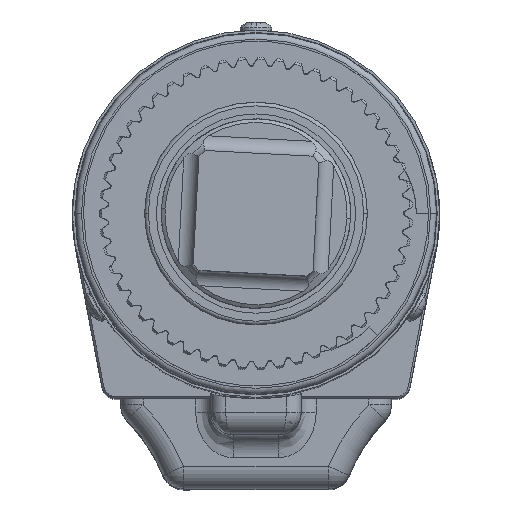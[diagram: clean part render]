
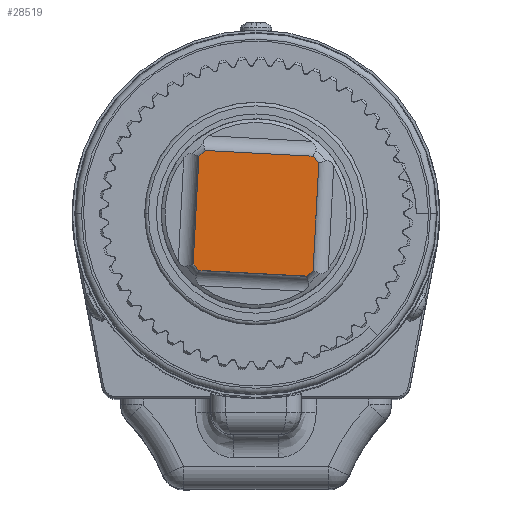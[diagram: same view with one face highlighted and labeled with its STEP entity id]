
A CAD part, top view. The second image highlights one B-rep face of the part: STEP entity #28519.
In plain terms, the highlighted planar face has unit normal (0, 0, 1).
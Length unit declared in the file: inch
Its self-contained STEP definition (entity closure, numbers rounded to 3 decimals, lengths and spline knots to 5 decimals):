
#1443 = AXIS2_PLACEMENT_3D ( 'NONE', #68792, #6378, #79298 ) ;
#6378 = DIRECTION ( 'NONE',  ( 0., 0., 1. ) ) ;
#6581 = VERTEX_POINT ( 'NONE', #33371 ) ;
#6741 = DIRECTION ( 'NONE',  ( 0.999, -0.053, 0. ) ) ;
#7119 = VERTEX_POINT ( 'NONE', #47820 ) ;
#10958 = EDGE_CURVE ( 'NONE', #51043, #114340, #50826, .T. ) ;
#11391 = ORIENTED_EDGE ( 'NONE', *, *, #21856, .T. ) ;
#12324 = VECTOR ( 'NONE', #14790, 39.37008 ) ;
#12559 = ORIENTED_EDGE ( 'NONE', *, *, #69939, .T. ) ;
#14704 = DIRECTION ( 'NONE',  ( 0.053, 0.999, 0. ) ) ;
#14790 = DIRECTION ( 'NONE',  ( -0.053, -0.999, 0. ) ) ;
#16274 = DIRECTION ( 'NONE',  ( 0.999, -0.053, 0. ) ) ;
#17007 = CARTESIAN_POINT ( 'NONE',  ( 0.03555, 0.66906, 5.7125 ) ) ;
#21355 = CARTESIAN_POINT ( 'NONE',  ( 0.92221, -0.54821, 5.7125 ) ) ;
#21856 = EDGE_CURVE ( 'NONE', #68021, #109756, #68152, .T. ) ;
#23177 = EDGE_CURVE ( 'NONE', #51043, #109756, #123085, .T. ) ;
#23558 = VECTOR ( 'NONE', #14704, 39.37008 ) ;
#25371 = EDGE_CURVE ( 'NONE', #28621, #114340, #92296, .T. ) ;
#25748 = AXIS2_PLACEMENT_3D ( 'NONE', #32892, #61510, #52847 ) ;
#26718 = CARTESIAN_POINT ( 'NONE',  ( -0.42057, 0.52155, 5.7125 ) ) ;
#27552 = DIRECTION ( 'NONE',  ( -0.999, 0.053, 0. ) ) ;
#28355 = ORIENTED_EDGE ( 'NONE', *, *, #116349, .F. ) ;
#28519 = ADVANCED_FACE ( 'NONE', ( #132526 ), #100123, .F. ) ;
#28621 = VERTEX_POINT ( 'NONE', #111071 ) ;
#29386 = CARTESIAN_POINT ( 'NONE',  ( -0.47348, -0.47404, 5.7125 ) ) ;
#31197 = CARTESIAN_POINT ( 'NONE',  ( -0.52155, -0.42057, 5.7125 ) ) ;
#32892 = CARTESIAN_POINT ( 'NONE',  ( 0., 0., 5.7125 ) ) ;
#33371 = CARTESIAN_POINT ( 'NONE',  ( 0.47348, 0.47404, 5.7125 ) ) ;
#35940 = AXIS2_PLACEMENT_3D ( 'NONE', #17007, #90046, #27552 ) ;
#39122 = EDGE_CURVE ( 'NONE', #28621, #6581, #41216, .T. ) ;
#40490 = VERTEX_POINT ( 'NONE', #26718 ) ;
#41216 = CIRCLE ( 'NONE', #1443, 0.67 ) ;
#47820 = CARTESIAN_POINT ( 'NONE',  ( -0.47404, 0.47348, 5.7125 ) ) ;
#48293 = AXIS2_PLACEMENT_3D ( 'NONE', #83247, #68741, #62217 ) ;
#50826 = CIRCLE ( 'NONE', #48293, 0.67 ) ;
#51043 = VERTEX_POINT ( 'NONE', #117235 ) ;
#52847 = DIRECTION ( 'NONE',  ( 0.999, -0.053, 0. ) ) ;
#56375 = CARTESIAN_POINT ( 'NONE',  ( 0.54821, 0.92221, 5.7125 ) ) ;
#57874 = CARTESIAN_POINT ( 'NONE',  ( -0.92221, 0.54821, 5.7125 ) ) ;
#61510 = DIRECTION ( 'NONE',  ( 0., 0., 1. ) ) ;
#62217 = DIRECTION ( 'NONE',  ( 0.999, -0.053, 0. ) ) ;
#62610 = ORIENTED_EDGE ( 'NONE', *, *, #23177, .F. ) ;
#68021 = VERTEX_POINT ( 'NONE', #31197 ) ;
#68152 = CIRCLE ( 'NONE', #25748, 0.67 ) ;
#68741 = DIRECTION ( 'NONE',  ( 0., 0., 1. ) ) ;
#68792 = CARTESIAN_POINT ( 'NONE',  ( 0., 0., 5.7125 ) ) ;
#69146 = DIRECTION ( 'NONE',  ( 0., 0., 1. ) ) ;
#69876 = EDGE_CURVE ( 'NONE', #40490, #6581, #101259, .T. ) ;
#69939 = EDGE_CURVE ( 'NONE', #40490, #7119, #112671, .T. ) ;
#73325 = DIRECTION ( 'NONE',  ( -0.999, 0.053, 0. ) ) ;
#75133 = VECTOR ( 'NONE', #73325, 39.37008 ) ;
#77814 = CARTESIAN_POINT ( 'NONE',  ( 0.47404, -0.47348, 5.7125 ) ) ;
#79298 = DIRECTION ( 'NONE',  ( 0.999, -0.053, 0. ) ) ;
#83247 = CARTESIAN_POINT ( 'NONE',  ( 0., 0., 5.7125 ) ) ;
#90046 = DIRECTION ( 'NONE',  ( 0., 0., -1. ) ) ;
#92296 = LINE ( 'NONE', #56375, #12324 ) ;
#97998 = VECTOR ( 'NONE', #16274, 39.37008 ) ;
#100123 = PLANE ( 'NONE',  #35940 ) ;
#100598 = ORIENTED_EDGE ( 'NONE', *, *, #39122, .T. ) ;
#101259 = LINE ( 'NONE', #57874, #97998 ) ;
#101260 = ORIENTED_EDGE ( 'NONE', *, *, #69876, .F. ) ;
#103569 = LINE ( 'NONE', #129670, #23558 ) ;
#109756 = VERTEX_POINT ( 'NONE', #29386 ) ;
#110715 = ORIENTED_EDGE ( 'NONE', *, *, #25371, .F. ) ;
#111071 = CARTESIAN_POINT ( 'NONE',  ( 0.52155, 0.42057, 5.7125 ) ) ;
#112671 = CIRCLE ( 'NONE', #130977, 0.67 ) ;
#114340 = VERTEX_POINT ( 'NONE', #77814 ) ;
#116349 = EDGE_CURVE ( 'NONE', #68021, #7119, #103569, .T. ) ;
#117235 = CARTESIAN_POINT ( 'NONE',  ( 0.42057, -0.52155, 5.7125 ) ) ;
#123085 = LINE ( 'NONE', #21355, #75133 ) ;
#123132 = ORIENTED_EDGE ( 'NONE', *, *, #10958, .T. ) ;
#129670 = CARTESIAN_POINT ( 'NONE',  ( -0.54821, -0.92221, 5.7125 ) ) ;
#130069 = EDGE_LOOP ( 'NONE', ( #12559, #28355, #11391, #62610, #123132, #110715, #100598, #101260 ) ) ;
#130977 = AXIS2_PLACEMENT_3D ( 'NONE', #131702, #69146, #6741 ) ;
#131702 = CARTESIAN_POINT ( 'NONE',  ( 0., 0., 5.7125 ) ) ;
#132526 = FACE_OUTER_BOUND ( 'NONE', #130069, .T. ) ;
